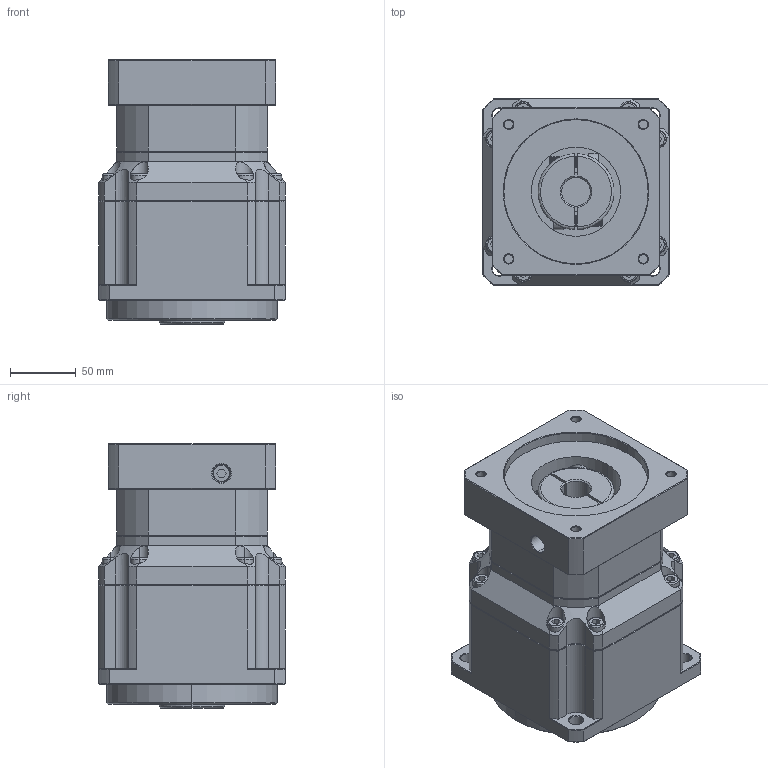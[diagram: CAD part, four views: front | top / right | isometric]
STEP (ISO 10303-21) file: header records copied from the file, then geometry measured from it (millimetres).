
FILE_DESCRIPTION (( 'STEP AP214' ), '1' );
FILE_NAME ('ZPB142-K35-L2-P1-22-110-145-M8.step', '2024-07-05T00:11:09', ( 'Windows 蚚誧' ), ( 'Organization' ), 'SwSTEP 2.0', 'SolidWorks 2016', '' );
FILE_SCHEMA (( 'AUTOMOTIVE_DESIGN' ));
Length unit declared in the file: millimetre
Products named in the file (1): ZPB142-K35-L2-P1-22-110-145-M8
Bounding box: 142 x 142 x 201.5 mm (x, y, z)
Surface area: 185846.8 mm2 (no closed solid volume)
Topology: 0 solids, 2 shells, 1750 faces, 4699 edges, 3048 vertices
Faces by surface type: plane 1014, bspline 390, cylinder 187, cone 159
Entity records: 87917 total; most frequent: CARTESIAN_POINT 39831, ORIENTED_EDGE 9384, DIRECTION 6906, EDGE_CURVE 4699, LINE 3158, VECTOR 3158, VERTEX_POINT 3048, AXIS2_PLACEMENT_3D 1874
